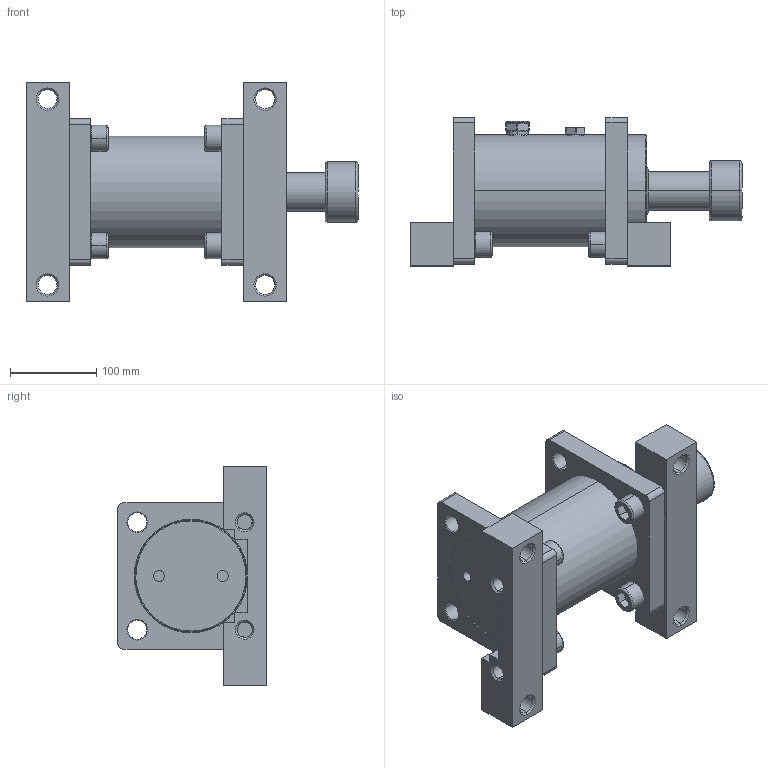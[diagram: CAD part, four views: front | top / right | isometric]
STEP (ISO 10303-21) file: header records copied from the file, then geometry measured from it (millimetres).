
FILE_DESCRIPTION (( 'STEP AP214' ), '1' );
FILE_NAME ('LDD3.0X2.STEP', '2019-01-16T06:50:28', ( 'user' ), ( 'Microsoft' ), 'SwSTEP 2.0', 'SolidWorks 2016', '' );
FILE_SCHEMA (( 'AUTOMOTIVE_DESIGN' ));
Length unit declared in the file: inch
Products named in the file (1): LDD3.0X2
Bounding box: 386 x 172.5 x 255 mm (x, y, z)
Surface area: 408983.9 mm2 (no closed solid volume)
Topology: 0 solids, 21 shells, 285 faces, 751 edges, 497 vertices
Faces by surface type: plane 109, cylinder 94, cone 52, bspline 30
Entity records: 15110 total; most frequent: CARTESIAN_POINT 8109, DIRECTION 1463, ORIENTED_EDGE 1367, EDGE_CURVE 751, AXIS2_PLACEMENT_3D 555, VERTEX_POINT 497, LINE 353, VECTOR 353
